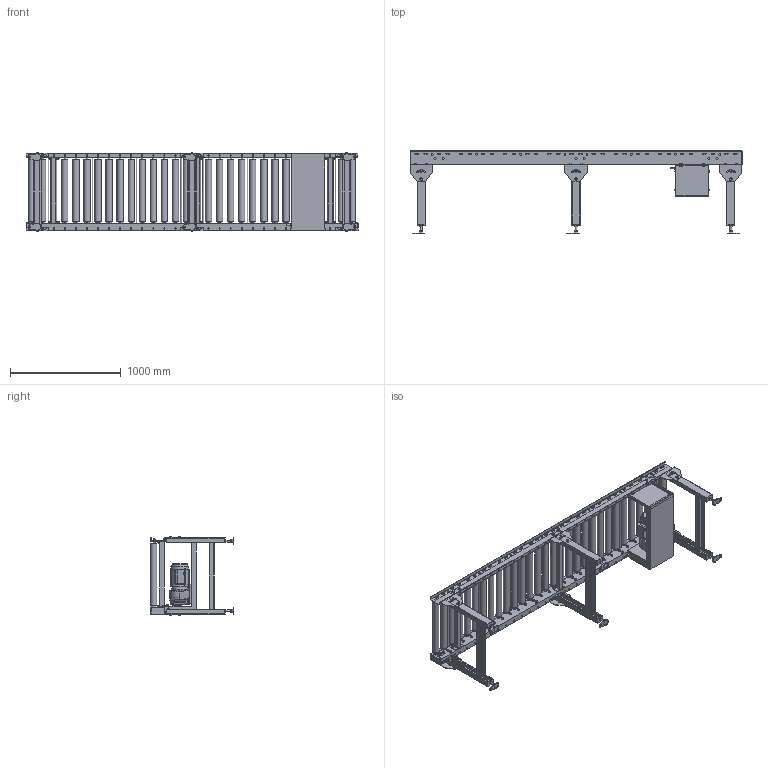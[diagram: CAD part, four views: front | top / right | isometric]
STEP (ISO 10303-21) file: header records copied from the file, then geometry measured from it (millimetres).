
FILE_DESCRIPTION( (''), '2;1');
FILE_NAME ('WEB-MCC4H-57-3-075-630-100-300-R-10S.stp','2025-06-18T08:55:06',(''),(''),'spGate 20.6.2 (****-****-****-****)','','');
FILE_SCHEMA (('AUTOMOTIVE_DESIGN'));
Length unit declared in the file: millimetre
Products named in the file (33): WEB-MCC4H-57-3-075-630-100-300-R-10S; TEMP_X_T-prt0; TEMP_X_T-prt1; TEMP_X_T-prt2; TEMP_X_T-prt3; TEMP_X_T-prt4; TEMP_X_T-prt5; TEMP_X_T-prt6; TEMP_X_T-prt7; TEMP_X_T-prt8; TEMP_X_T-prt9; TEMP_X_T-prt10; TEMP_X_T-prt11; TEMP_X_T-prt12; TEMP_X_T-prt13; TEMP_X_T-prt14; TEMP_X_T-prt15; TEMP_X_T-prt16; TEMP_X_T-prt17; TEMP_X_T-prt18; TEMP_X_T-prt19; TEMP_X_T-prt20; TEMP_X_T-prt21; TEMP_X_T-prt22; TEMP_X_T-prt23; TEMP_X_T-prt24; TEMP_X_T-prt25; TEMP_X_T-prt26; TEMP_X_T-prt27; TEMP_X_T-prt28; TEMP_X_T-prt29; TEMP_X_T-prt30; TEMP_X_T-prt31
Assembly tree (32 placements, depth 2):
  WEB-MCC4H-57-3-075-630-100-300-R-10S
    TEMP_X_T-prt0
    TEMP_X_T-prt1
    TEMP_X_T-prt2
    TEMP_X_T-prt3
    TEMP_X_T-prt4
    TEMP_X_T-prt5
    TEMP_X_T-prt6
    TEMP_X_T-prt7
    TEMP_X_T-prt8
    TEMP_X_T-prt9
    TEMP_X_T-prt10
    TEMP_X_T-prt11
    TEMP_X_T-prt12
    TEMP_X_T-prt13
    TEMP_X_T-prt14
    TEMP_X_T-prt15
    TEMP_X_T-prt16
    TEMP_X_T-prt17
    TEMP_X_T-prt18
    TEMP_X_T-prt19
    TEMP_X_T-prt20
    TEMP_X_T-prt21
    TEMP_X_T-prt22
    TEMP_X_T-prt23
    TEMP_X_T-prt24
    TEMP_X_T-prt25
    TEMP_X_T-prt26
    TEMP_X_T-prt27
    TEMP_X_T-prt28
    TEMP_X_T-prt29
    TEMP_X_T-prt30
    TEMP_X_T-prt31
Bounding box: 3002.4 x 750.3 x 714.4 mm (x, y, z)
Volume: 100223063.7 mm3; surface area: 9530765.9 mm2
Topology: 32 solids, 32 shells, 3380 faces, 8407 edges, 5643 vertices
Faces by surface type: plane 2543, cylinder 763, bspline 57, sphere 17
Full cylindrical faces by diameter (mm): 6 x30, 6.94 x3, 7 x1, 8 x33, 9.2 x4, 10 x83, 10.5 x14, 11 x60, 11.8 x16, 12 x9, 13 x14, 15 x4, 15.4 x35, 15.5 x30, 16 x24, 18 x25, 18.4 x22, 21 x4, 22 x19, 24 x42, 24.5 x4, 25 x4, 27 x1, 30 x1, 37 x30, 38 x1, 45 x1, 47 x30, 57 x30, 75 x1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
Entity records: 172192 total; most frequent: CARTESIAN_POINT 20711, DIRECTION 17168, ORIENTED_EDGE 16782, COLOUR_RGB 11803, PRESENTATION_STYLE_ASSIGNMENT 11803, STYLED_ITEM 11803, EDGE_CURVE 8391, DRAUGHTING_PRE_DEFINED_CURVE_FONT 8391
